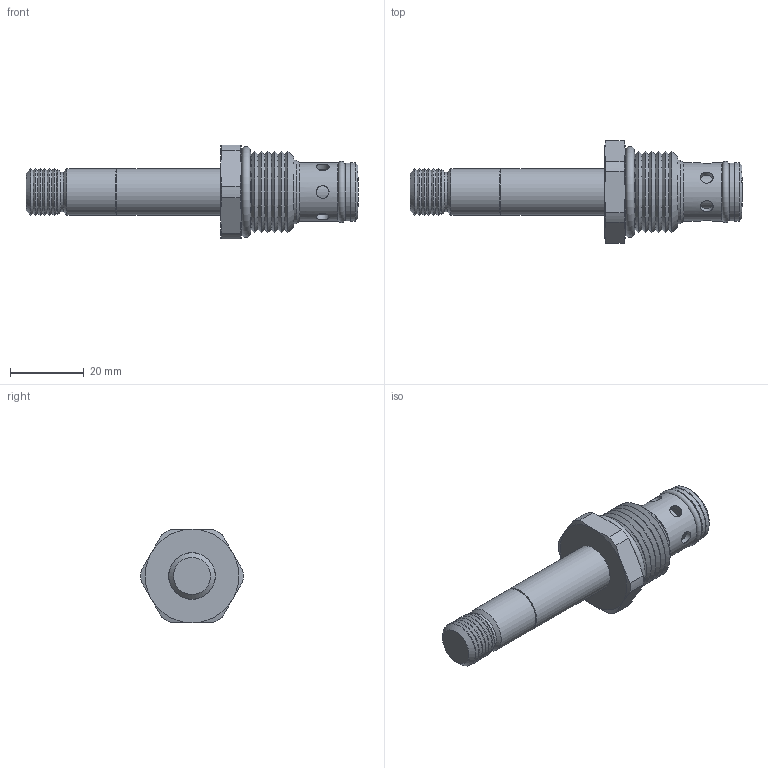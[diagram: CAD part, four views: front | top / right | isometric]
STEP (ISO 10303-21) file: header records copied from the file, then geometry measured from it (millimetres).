
FILE_DESCRIPTION((''),'2;1');
FILE_NAME('Q:\Solid model CD\Solid model full\Solenoid\STEP\DES2A00-3D Full.stp','2009-06-01T09:22:52',('Dan'),(''),'Autodesk Inventor 2009','Autodesk Inventor 2009','');
FILE_SCHEMA(('AUTOMOTIVE_DESIGN { 1 0 10303 214 1 1 1 1 }'));
Length unit declared in the file: inch
Products named in the file (5): DES2A00-3D Full; DES2A00-3D Full1; DES2A00-3D Full2; DES2A00-3D Full3; DES2A00-3D Full4
Assembly tree (4 placements, depth 2):
  DES2A00-3D Full
    DES2A00-3D Full1
    DES2A00-3D Full2
    DES2A00-3D Full3
    DES2A00-3D Full4
Bounding box: 90.11 x 27.74 x 25.4 mm (x, y, z)
Volume: 17492.8 mm3; surface area: 7642.7 mm2
Topology: 4 solids, 4 shells, 100 faces, 208 edges, 121 vertices
Faces by surface type: cone 45, cylinder 28, plane 22, bspline 3, torus 2
Full cylindrical faces by diameter (mm): 0.711 x1, 3.454 x6, 7.95 x1, 9.525 x1, 10.668 x1, 10.973 x1, 10.998 x1, 12.586 x1, 12.675 x1, 12.7 x1, 12.992 x1, 13.043 x1, 15.735 x1, 15.773 x2, 17.323 x1, 19.624 x1
Entity records: 2926 total; most frequent: CARTESIAN_POINT 942, DIRECTION 412, ORIENTED_EDGE 284, AXIS2_PLACEMENT_3D 200, EDGE_LOOP 184, EDGE_CURVE 142, VERTEX_POINT 115, FACE_OUTER_BOUND 100
